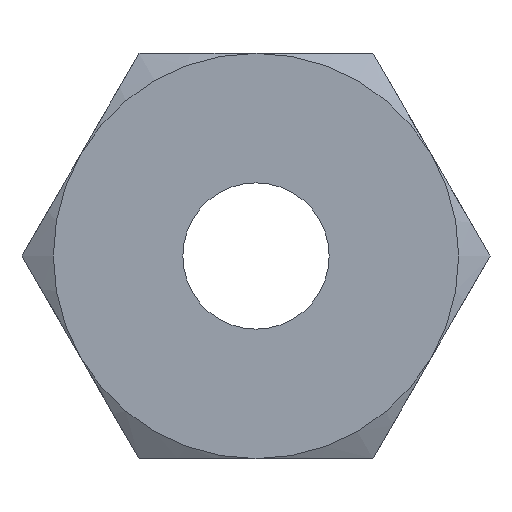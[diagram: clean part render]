
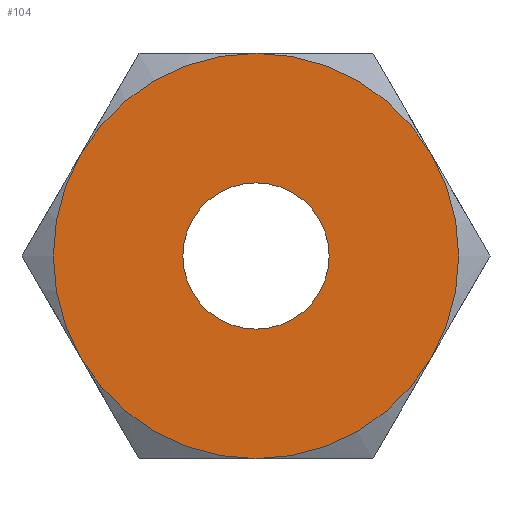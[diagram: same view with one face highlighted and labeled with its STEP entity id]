
A CAD part, front view. The second image highlights one B-rep face of the part: STEP entity #104.
In plain terms, the highlighted planar face has unit normal (0, -1, 0).
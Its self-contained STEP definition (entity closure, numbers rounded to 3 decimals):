
#15 = VERTEX_POINT ( 'NONE', #234 ) ;
#19 = VERTEX_POINT ( 'NONE', #220 ) ;
#24 = VERTEX_POINT ( 'NONE', #216 ) ;
#27 = VERTEX_POINT ( 'NONE', #263 ) ;
#51 = VERTEX_POINT ( 'NONE', #282 ) ;
#73 = VERTEX_POINT ( 'NONE', #349 ) ;
#87 = VERTEX_POINT ( 'NONE', #369 ) ;
#99 = EDGE_LOOP ( 'NONE', ( #105, #1116 ) ) ;
#104 = ADVANCED_FACE ( 'NONE', ( #439, #426 ), #425, .F. ) ;
#105 = ORIENTED_EDGE ( 'NONE', *, *, #106, .T. ) ;
#106 = EDGE_CURVE ( 'NONE', #27, #24, #424, .T. ) ;
#115 = VERTEX_POINT ( 'NONE', #453 ) ;
#162 = EDGE_CURVE ( 'NONE', #24, #27, #631, .T. ) ;
#216 = CARTESIAN_POINT ( 'NONE',  ( 0., 0., -6.5 ) ) ;
#220 = CARTESIAN_POINT ( 'NONE',  ( -15.588, 0., -9. ) ) ;
#234 = CARTESIAN_POINT ( 'NONE',  ( 0., 0., -18. ) ) ;
#263 = CARTESIAN_POINT ( 'NONE',  ( 0., 0., 6.5 ) ) ;
#282 = CARTESIAN_POINT ( 'NONE',  ( 15.588, 0., 9. ) ) ;
#349 = CARTESIAN_POINT ( 'NONE',  ( -15.588, 0., 9. ) ) ;
#369 = CARTESIAN_POINT ( 'NONE',  ( 0., 0., 18. ) ) ;
#416 = DIRECTION ( 'NONE',  ( 0., 0., 1. ) ) ;
#417 = DIRECTION ( 'NONE',  ( 0., 1., 0. ) ) ;
#418 = CARTESIAN_POINT ( 'NONE',  ( 0., 0., 0. ) ) ;
#419 = AXIS2_PLACEMENT_3D ( 'NONE', #418, #417, #416 ) ;
#420 = DIRECTION ( 'NONE',  ( 0., 0., 1. ) ) ;
#421 = DIRECTION ( 'NONE',  ( 0., 1., 0. ) ) ;
#422 = CARTESIAN_POINT ( 'NONE',  ( 20.785, 0., 0. ) ) ;
#423 = AXIS2_PLACEMENT_3D ( 'NONE', #422, #421, #420 ) ;
#424 = CIRCLE ( 'NONE', #419, 6.5 ) ;
#425 = PLANE ( 'NONE',  #423 ) ;
#426 = FACE_OUTER_BOUND ( 'NONE', #1121, .T. ) ;
#439 = FACE_BOUND ( 'NONE', #99, .T. ) ;
#453 = CARTESIAN_POINT ( 'NONE',  ( 15.588, 0., -9. ) ) ;
#627 = DIRECTION ( 'NONE',  ( 0., 0., 1. ) ) ;
#628 = DIRECTION ( 'NONE',  ( 0., 1., 0. ) ) ;
#629 = CARTESIAN_POINT ( 'NONE',  ( 0., 0., 0. ) ) ;
#630 = AXIS2_PLACEMENT_3D ( 'NONE', #629, #628, #627 ) ;
#631 = CIRCLE ( 'NONE', #630, 6.5 ) ;
#716 = CIRCLE ( 'NONE', #780, 18. ) ;
#717 = DIRECTION ( 'NONE',  ( 0., 0., -1. ) ) ;
#718 = DIRECTION ( 'NONE',  ( 0., -1., 0. ) ) ;
#719 = CARTESIAN_POINT ( 'NONE',  ( 0., 0., 0. ) ) ;
#720 = AXIS2_PLACEMENT_3D ( 'NONE', #719, #718, #717 ) ;
#721 = CIRCLE ( 'NONE', #720, 18. ) ;
#722 = DIRECTION ( 'NONE',  ( 0., 0., 1. ) ) ;
#723 = DIRECTION ( 'NONE',  ( 0., -1., 0. ) ) ;
#724 = CARTESIAN_POINT ( 'NONE',  ( 0., 0., 0. ) ) ;
#725 = AXIS2_PLACEMENT_3D ( 'NONE', #724, #723, #722 ) ;
#726 = CIRCLE ( 'NONE', #725, 18. ) ;
#767 = DIRECTION ( 'NONE',  ( 0., 0., 1. ) ) ;
#768 = DIRECTION ( 'NONE',  ( 0., -1., 0. ) ) ;
#769 = CARTESIAN_POINT ( 'NONE',  ( 0., 0., 0. ) ) ;
#770 = AXIS2_PLACEMENT_3D ( 'NONE', #769, #768, #767 ) ;
#771 = CIRCLE ( 'NONE', #770, 18. ) ;
#772 = DIRECTION ( 'NONE',  ( 0., 0., 1. ) ) ;
#773 = DIRECTION ( 'NONE',  ( 0., -1., 0. ) ) ;
#774 = CARTESIAN_POINT ( 'NONE',  ( 0., 0., 0. ) ) ;
#775 = AXIS2_PLACEMENT_3D ( 'NONE', #774, #773, #772 ) ;
#776 = CIRCLE ( 'NONE', #775, 18. ) ;
#777 = DIRECTION ( 'NONE',  ( 0., 0., 1. ) ) ;
#778 = DIRECTION ( 'NONE',  ( 0., -1., 0. ) ) ;
#779 = CARTESIAN_POINT ( 'NONE',  ( 0., 0., 0. ) ) ;
#780 = AXIS2_PLACEMENT_3D ( 'NONE', #779, #778, #777 ) ;
#784 = DIRECTION ( 'NONE',  ( 0., 0., 1. ) ) ;
#785 = DIRECTION ( 'NONE',  ( 0., -1., 0. ) ) ;
#786 = CARTESIAN_POINT ( 'NONE',  ( 0., 0., 0. ) ) ;
#787 = AXIS2_PLACEMENT_3D ( 'NONE', #786, #785, #784 ) ;
#791 = CIRCLE ( 'NONE', #787, 18. ) ;
#1108 = ORIENTED_EDGE ( 'NONE', *, *, #1112, .T. ) ;
#1111 = EDGE_CURVE ( 'NONE', #19, #15, #726, .T. ) ;
#1112 = EDGE_CURVE ( 'NONE', #15, #115, #721, .T. ) ;
#1113 = ORIENTED_EDGE ( 'NONE', *, *, #1111, .T. ) ;
#1114 = ORIENTED_EDGE ( 'NONE', *, *, #1124, .T. ) ;
#1115 = EDGE_CURVE ( 'NONE', #51, #87, #716, .T. ) ;
#1116 = ORIENTED_EDGE ( 'NONE', *, *, #162, .T. ) ;
#1120 = EDGE_CURVE ( 'NONE', #73, #19, #776, .T. ) ;
#1121 = EDGE_LOOP ( 'NONE', ( #1125, #1114, #1122, #1113, #1108, #1135 ) ) ;
#1122 = ORIENTED_EDGE ( 'NONE', *, *, #1120, .T. ) ;
#1124 = EDGE_CURVE ( 'NONE', #87, #73, #771, .T. ) ;
#1125 = ORIENTED_EDGE ( 'NONE', *, *, #1115, .T. ) ;
#1132 = EDGE_CURVE ( 'NONE', #115, #51, #791, .T. ) ;
#1135 = ORIENTED_EDGE ( 'NONE', *, *, #1132, .T. ) ;
